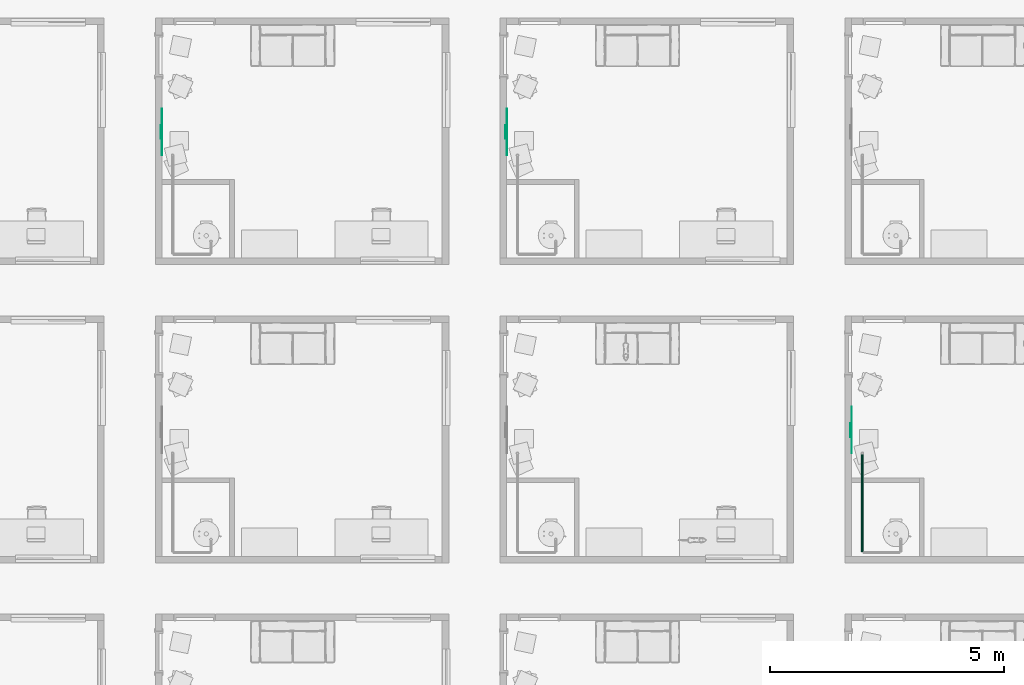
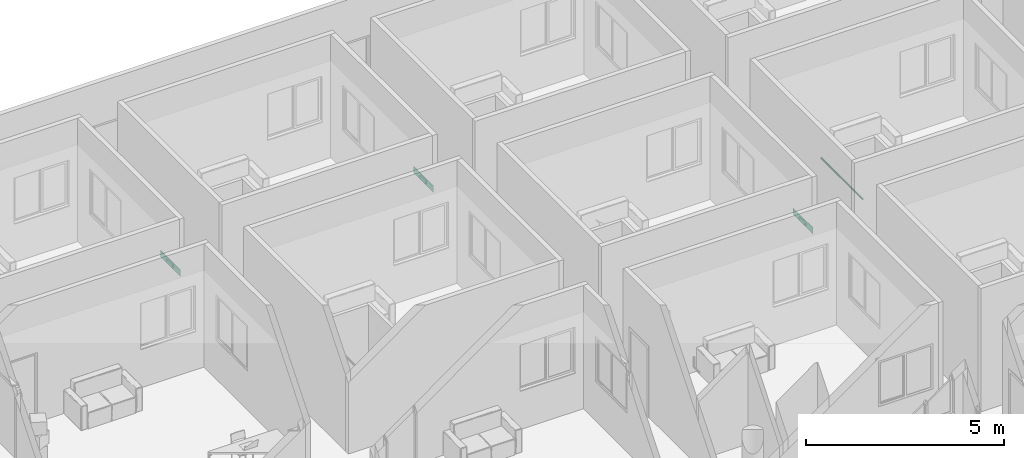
# One storey, part 29 of 71: 3 air terminals, 1 pipe segment.
"""IFC4 building model written with IfcOpenShell, lengths in centimetres."""

from ifc_helpers import new_model, entity, si_unit, converted_unit, derived_unit, direction, frame, origin, place, context, subcontext, project, spatial, arc, indexed_curve, outline, extrude, source, transform, mapped, material, constituent, constituent_set, type_object, type_shapes, element, save


model = new_model("IFC4")

# Units and contexts
model_context = context("Model", 3, precision=0.001, world=origin(), true_north=direction((6.123233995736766e-17, 1.0)))
body_context = subcontext(model_context, "Body", "Model", "MODEL_VIEW")
ifc_project = project(units=[si_unit("LENGTHUNIT", "METRE", prefix="CENTI"), si_unit("AREAUNIT", "SQUARE_METRE"), si_unit("VOLUMEUNIT", "CUBIC_METRE"), derived_unit("THERMALTRANSMITTANCEUNIT", [(si_unit("MASSUNIT", "GRAM", prefix="KILO"), 1), (si_unit("THERMODYNAMICTEMPERATUREUNIT", "KELVIN"), -1), (si_unit("TIMEUNIT", "SECOND"), -3)]), converted_unit("PLANEANGLEUNIT", "DEGREE", entity("IfcPlaneAngleMeasure", 0.017453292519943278), si_unit("PLANEANGLEUNIT", "RADIAN"), dimensions=[0, 0, 0, 0, 0, 0, 0]), derived_unit("MASSDENSITYUNIT", [(si_unit("MASSUNIT", "GRAM", prefix="KILO"), 1), (si_unit("LENGTHUNIT", "METRE"), -3)]), derived_unit("VAPORPERMEABILITYUNIT", [(si_unit("LENGTHUNIT", "METRE"), -1), (si_unit("TIMEUNIT", "SECOND"), 1)]), derived_unit("USERDEFINED", [(si_unit("MASSUNIT", "GRAM", prefix="KILO"), 1), (si_unit("TIMEUNIT", "SECOND"), -3), (si_unit("LENGTHUNIT", "METRE"), 3), (si_unit("ELECTRICCURRENTUNIT", "AMPERE"), -2)]), derived_unit("SPECIFICHEATCAPACITYUNIT", [(si_unit("THERMODYNAMICTEMPERATUREUNIT", "KELVIN"), -1), (si_unit("LENGTHUNIT", "METRE"), 2), (si_unit("TIMEUNIT", "SECOND"), -2)]), derived_unit("THERMALCONDUCTANCEUNIT", [(si_unit("MASSUNIT", "GRAM", prefix="KILO"), 1), (si_unit("THERMODYNAMICTEMPERATUREUNIT", "KELVIN"), -1), (si_unit("TIMEUNIT", "SECOND"), -3), (si_unit("LENGTHUNIT", "METRE"), 1)]), si_unit("PRESSUREUNIT", "PASCAL"), derived_unit("MODULUSOFELASTICITYUNIT", [(si_unit("MASSUNIT", "GRAM", prefix="KILO"), 1), (si_unit("LENGTHUNIT", "METRE"), -1), (si_unit("TIMEUNIT", "SECOND"), -2)]), derived_unit("THERMALEXPANSIONCOEFFICIENTUNIT", [(si_unit("THERMODYNAMICTEMPERATUREUNIT", "KELVIN"), -1)])], contexts=[model_context])

# Site, building, storey, space
site_placement = place(None, origin())
site = spatial("IfcSite", under=ifc_project, at=site_placement, Name="Default", CompositionType="ELEMENT")
building_placement = place(site_placement, origin())
building = spatial("IfcBuilding", under=site, at=building_placement, Name="IDS Escape Game Building", CompositionType="ELEMENT")
storey_placement = place(building_placement, frame((0.0, 0.0, 1200.0)))
storey = spatial("IfcBuildingStorey", under=building, at=storey_placement, Name="03_Third Floor", CompositionType="ELEMENT", Elevation=1200.0)
space_1_placement = place(storey_placement, origin())
space_1 = spatial("IfcSpace", under=storey, at=space_1_placement, Name="130", CompositionType="ELEMENT", PredefinedType="NOTDEFINED")

# Air terminal
ifc_material_1 = material(Name="TB_LVC_referentievlak_00_gen_BERSnl", Category="BE Default")
ifc_constituent_1 = constituent(ifc_material_1, Name="TB_LVC_referentievlak_00_gen_BERSnl", Category="BE Default", fraction=0.00014157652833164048)
ifc_material_2 = material(Name="ARC_FME.h2_staal_00_gen_BERSnl", Category="h - metaal")
ifc_constituent_2 = constituent(ifc_material_2, Name="ARC_FME.h2_staal_00_gen_BERSnl", Category="h - metaal", fraction=0.9998584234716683)
ifc_constituent_set_1 = constituent_set(constituents=[ifc_constituent_1, ifc_constituent_2])
ifc_constituent_3 = constituent(ifc_material_1, Name="BE Referentievlak", Category="BE Default", fraction=0.00014157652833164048)
ifc_constituent_4 = constituent(ifc_material_2, Name="Terminals", Category="h - metaal", fraction=0.9998584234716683)
ifc_constituent_set_2 = constituent_set(constituents=[ifc_constituent_3, ifc_constituent_4])
air_terminal_type = type_object("IfcAirTerminalType", Name="TB_57_AIR_FB_aanzuigrooster - 1 rechthoekige aansluiting - calculated flow_gen_BERSnl:Air Terminal - Exhaust", PredefinedType="GRILLE", material=ifc_constituent_set_2)
shared_shape = source(origin(), body_context, "Body", "SweptSolid", [
    extrude(outline(indexed_curve([(-0.5, -2.0290176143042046e-15), (6.8507733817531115e-16, -0.5000000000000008), (0.5, 2.0290176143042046e-15), (-5.361679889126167e-16, 0.49999999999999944)], segments=[arc(1, 2, 3), arc(3, 4, 1)], self_intersect=False)), frame((0.0, 0.0, 0.0), z_axis=(1.7453292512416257e-05, 0.0, 1.0), x_axis=(0.0, 1.0, 0.0)), (0.0, 0.0, 1.0), 0.09999999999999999),
    extrude(outline(indexed_curve([(-14.900000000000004, -4.9), (14.900000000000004, -4.9), (14.900000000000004, 4.9), (-14.900000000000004, 4.9), (-14.900000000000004, -4.9)], self_intersect=False)), frame((-4.886921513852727e-05, 0.0, -2.7999999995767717)), (0.0, 0.0, 1.0), 2.7999999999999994),
    extrude(outline(indexed_curve([(-50.0, -10.0), (50.0, -10.0), (50.0, 10.0), (-50.0, 10.0), (-50.0, -10.0)], self_intersect=False)), frame((0.0, 0.0, 0.0), z_axis=(0.0, 0.0, 1.0), x_axis=(-1.0, 0.0, 0.0)), (0.0, 0.0, 1.0), 0.6999999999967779),
])
type_shapes(air_terminal_type, [shared_shape])
air_terminal_1_placement = place(space_1_placement, frame((2221.0, 2197.0, 24.0), z_axis=(1.0, 0.0, 0.0), x_axis=(0.0, 1.0, 0.0)))
element("IfcAirTerminal", 1, at=air_terminal_1_placement, inside=space_1, type_object=air_terminal_type, material=ifc_constituent_set_1, Name="TB_57_AIR_FB_aanzuigrooster - 1 rechthoekige aansluiting - calculated flow_gen_BERSnl:Air Terminal - Exhaust", ObjectType="TB_57_AIR_FB_aanzuigrooster - 1 rechthoekige aansluiting - calculated flow_gen_BERSnl:Air Terminal - Exhaust", PredefinedType="GRILLE", context=body_context, shape_type="MappedRepresentation", body=[
    mapped(shared_shape, transform((0.0, 0.0, 0.0), scale=1.0)),
])

# Space
space_2_placement = place(storey_placement, origin())
space_2 = spatial("IfcSpace", under=storey, at=space_2_placement, Name="135", CompositionType="ELEMENT", PredefinedType="NOTDEFINED")

# Air terminal
ifc_constituent_5 = constituent(ifc_material_1, Name="TB_LVC_referentievlak_00_gen_BERSnl", Category="BE Default", fraction=0.00014157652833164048)
ifc_constituent_6 = constituent(ifc_material_2, Name="ARC_FME.h2_staal_00_gen_BERSnl", Category="h - metaal", fraction=0.9998584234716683)
ifc_constituent_set_3 = constituent_set(constituents=[ifc_constituent_5, ifc_constituent_6])
air_terminal_2_placement = place(space_2_placement, frame((745.0, 2835.0, 24.0), z_axis=(1.0, 0.0, 0.0), x_axis=(0.0, 1.0, 0.0)))
element("IfcAirTerminal", 2, at=air_terminal_2_placement, inside=space_2, type_object=air_terminal_type, material=ifc_constituent_set_3, Name="TB_57_AIR_FB_aanzuigrooster - 1 rechthoekige aansluiting - calculated flow_gen_BERSnl:Air Terminal - Exhaust", ObjectType="TB_57_AIR_FB_aanzuigrooster - 1 rechthoekige aansluiting - calculated flow_gen_BERSnl:Air Terminal - Exhaust", PredefinedType="GRILLE", context=body_context, shape_type="MappedRepresentation", body=[
    mapped(shared_shape, transform((0.0, 0.0, 0.0), scale=1.0)),
])

# Space
space_3_placement = place(storey_placement, origin())
space_3 = spatial("IfcSpace", under=storey, at=space_3_placement, Name="136", CompositionType="ELEMENT", PredefinedType="NOTDEFINED")

# Air terminal
ifc_constituent_7 = constituent(ifc_material_1, Name="TB_LVC_referentievlak_00_gen_BERSnl", Category="BE Default", fraction=0.00014157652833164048)
ifc_constituent_8 = constituent(ifc_material_2, Name="ARC_FME.h2_staal_00_gen_BERSnl", Category="h - metaal", fraction=0.9998584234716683)
ifc_constituent_set_4 = constituent_set(constituents=[ifc_constituent_7, ifc_constituent_8])
air_terminal_3_placement = place(space_3_placement, frame((1483.0, 2835.0, 24.0), z_axis=(1.0, 0.0, 0.0), x_axis=(0.0, 1.0, 0.0)))
element("IfcAirTerminal", 3, at=air_terminal_3_placement, inside=space_3, type_object=air_terminal_type, material=ifc_constituent_set_4, Name="TB_57_AIR_FB_aanzuigrooster - 1 rechthoekige aansluiting - calculated flow_gen_BERSnl:Air Terminal - Exhaust", ObjectType="TB_57_AIR_FB_aanzuigrooster - 1 rechthoekige aansluiting - calculated flow_gen_BERSnl:Air Terminal - Exhaust", PredefinedType="GRILLE", context=body_context, shape_type="MappedRepresentation", body=[
    mapped(shared_shape, transform((0.0, 0.0, 0.0), scale=1.0)),
])

# Pipe segment
pipe_segment_type = type_object("IfcPipeSegmentType", Name="Pipe Types:Piping Aluminum", PredefinedType="NOTDEFINED")
pipe_segment_placement = place(storey_placement, origin())
element("IfcPipeSegment", 4, at=pipe_segment_placement, inside=storey, type_object=pipe_segment_type, Name="Pipe Types:Piping Aluminum", ObjectType="Pipe Types:Piping Aluminum", PredefinedType="NOTDEFINED", context=body_context, shape_type="SweptSolid", body=[
    extrude(outline(indexed_curve([(2.412999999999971, 0.0), (1.7062486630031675, 1.7062486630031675), (0.0, 2.412999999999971), (-1.7062486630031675, 1.7062486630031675), (-2.412999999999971, 0.0), (-1.7062486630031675, -1.7062486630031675), (0.0, -2.412999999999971), (1.7062486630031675, -1.7062486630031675)], segments=[arc(1, 2, 3), arc(3, 4, 5), arc(5, 6, 7), arc(7, 8, 1)], self_intersect=False)), frame((2244.0467168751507, 1936.364827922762, 242.0), z_axis=(0.0, 1.0, 0.0), x_axis=(1.0, 0.0, 0.0)), (0.0, 0.0, 1.0), 208.80000000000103),
])

save(model, "model.ifc")
